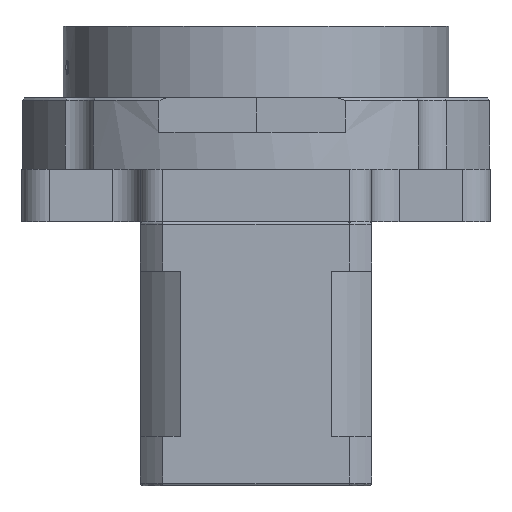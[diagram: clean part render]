
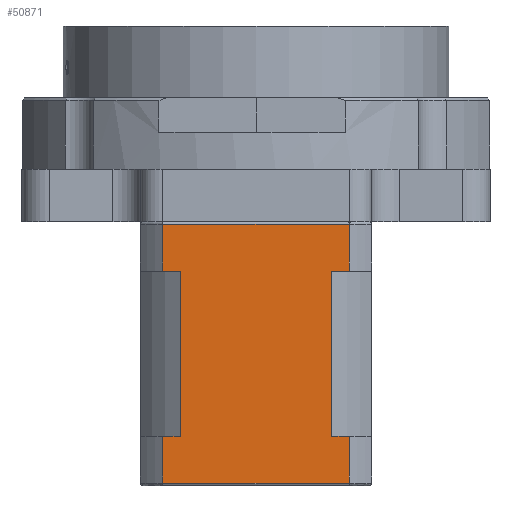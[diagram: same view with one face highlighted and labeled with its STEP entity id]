
A CAD part, front view. The second image highlights one B-rep face of the part: STEP entity #50871.
In plain terms, the highlighted planar face has unit normal (0, -1, 0).
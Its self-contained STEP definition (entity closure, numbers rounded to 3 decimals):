
#455 = LINE ( 'NONE', #16737, #22677 ) ;
#866 = LINE ( 'NONE', #35683, #26072 ) ;
#2549 = DIRECTION ( 'NONE',  ( 0., 0., 1. ) ) ;
#3076 = LINE ( 'NONE', #23248, #17151 ) ;
#3286 = VERTEX_POINT ( 'NONE', #44346 ) ;
#3741 = EDGE_CURVE ( 'NONE', #46959, #45045, #866, .T. ) ;
#4073 = ORIENTED_EDGE ( 'NONE', *, *, #44295, .F. ) ;
#4267 = ORIENTED_EDGE ( 'NONE', *, *, #47533, .F. ) ;
#4786 = ORIENTED_EDGE ( 'NONE', *, *, #5114, .F. ) ;
#5114 = EDGE_CURVE ( 'NONE', #37628, #23969, #3076, .T. ) ;
#5307 = CARTESIAN_POINT ( 'NONE',  ( -19.716, -63.121, 42.75 ) ) ;
#5423 = VERTEX_POINT ( 'NONE', #28643 ) ;
#5902 = DIRECTION ( 'NONE',  ( 0., 0., -1. ) ) ;
#7229 = ORIENTED_EDGE ( 'NONE', *, *, #44148, .F. ) ;
#7815 = VECTOR ( 'NONE', #43420, 1000. ) ;
#8179 = VECTOR ( 'NONE', #5902, 1000. ) ;
#8844 = VECTOR ( 'NONE', #61159, 1000. ) ;
#8986 = EDGE_CURVE ( 'NONE', #28446, #47922, #44491, .T. ) ;
#11150 = CARTESIAN_POINT ( 'NONE',  ( -22.938, -63.121, 43.25 ) ) ;
#11440 = EDGE_CURVE ( 'NONE', #5423, #46959, #455, .T. ) ;
#11457 = CARTESIAN_POINT ( 'NONE',  ( -22.938, -63.121, 81.75 ) ) ;
#11573 = PLANE ( 'NONE',  #17022 ) ;
#12390 = EDGE_CURVE ( 'NONE', #24683, #29855, #13750, .T. ) ;
#12729 = CARTESIAN_POINT ( 'NONE',  ( 11.003, -63.121, 43.25 ) ) ;
#12991 = EDGE_CURVE ( 'NONE', #19612, #5423, #45610, .T. ) ;
#13750 = LINE ( 'NONE', #61180, #61115 ) ;
#14010 = CARTESIAN_POINT ( 'NONE',  ( -26.967, -63.121, 90.25 ) ) ;
#14128 = DIRECTION ( 'NONE',  ( 0., 0., 1. ) ) ;
#14578 = CARTESIAN_POINT ( 'NONE',  ( 11.003, -63.121, 42.75 ) ) ;
#14623 = ORIENTED_EDGE ( 'NONE', *, *, #3741, .F. ) ;
#16697 = ORIENTED_EDGE ( 'NONE', *, *, #46854, .F. ) ;
#16737 = CARTESIAN_POINT ( 'NONE',  ( -26.967, -63.121, 81.75 ) ) ;
#17022 = AXIS2_PLACEMENT_3D ( 'NONE', #49473, #58960, #30652 ) ;
#17151 = VECTOR ( 'NONE', #14128, 1000. ) ;
#18080 = EDGE_LOOP ( 'NONE', ( #33441, #39430, #4267, #42472, #16697, #41265, #4073, #14623, #19673, #54689, #7229, #4786 ) ) ;
#19612 = VERTEX_POINT ( 'NONE', #53298 ) ;
#19673 = ORIENTED_EDGE ( 'NONE', *, *, #11440, .F. ) ;
#20020 = LINE ( 'NONE', #56431, #32639 ) ;
#21512 = VECTOR ( 'NONE', #37636, 1000. ) ;
#22677 = VECTOR ( 'NONE', #49862, 1000. ) ;
#22829 = LINE ( 'NONE', #14578, #35429 ) ;
#23248 = CARTESIAN_POINT ( 'NONE',  ( -22.938, -63.121, 42.75 ) ) ;
#23332 = DIRECTION ( 'NONE',  ( 1., 0., 0. ) ) ;
#23338 = DIRECTION ( 'NONE',  ( 0., 0., -1. ) ) ;
#23376 = CARTESIAN_POINT ( 'NONE',  ( 7.781, -63.121, 51.75 ) ) ;
#23969 = VERTEX_POINT ( 'NONE', #25824 ) ;
#24428 = VECTOR ( 'NONE', #25556, 1000. ) ;
#24683 = VERTEX_POINT ( 'NONE', #55999 ) ;
#25556 = DIRECTION ( 'NONE',  ( -1., 0., 0. ) ) ;
#25824 = CARTESIAN_POINT ( 'NONE',  ( -22.938, -63.121, 51.75 ) ) ;
#26072 = VECTOR ( 'NONE', #2549, 1000. ) ;
#27818 = CARTESIAN_POINT ( 'NONE',  ( -26.967, -63.121, 51.75 ) ) ;
#28101 = CARTESIAN_POINT ( 'NONE',  ( 15.033, -63.121, 43.25 ) ) ;
#28228 = CARTESIAN_POINT ( 'NONE',  ( 11.003, -63.121, 81.75 ) ) ;
#28446 = VERTEX_POINT ( 'NONE', #45558 ) ;
#28643 = CARTESIAN_POINT ( 'NONE',  ( -19.716, -63.121, 81.75 ) ) ;
#29073 = DIRECTION ( 'NONE',  ( 0., 0., -1. ) ) ;
#29611 = VECTOR ( 'NONE', #60878, 1000. ) ;
#29716 = CARTESIAN_POINT ( 'NONE',  ( 11.003, -63.121, 42.75 ) ) ;
#29855 = VERTEX_POINT ( 'NONE', #23376 ) ;
#30652 = DIRECTION ( 'NONE',  ( -1., 0., 0. ) ) ;
#31409 = CARTESIAN_POINT ( 'NONE',  ( -22.938, -63.121, 90.25 ) ) ;
#32639 = VECTOR ( 'NONE', #23332, 1000. ) ;
#33441 = ORIENTED_EDGE ( 'NONE', *, *, #54616, .F. ) ;
#34064 = LINE ( 'NONE', #28101, #8844 ) ;
#35429 = VECTOR ( 'NONE', #29073, 1000. ) ;
#35683 = CARTESIAN_POINT ( 'NONE',  ( -22.938, -63.121, 42.75 ) ) ;
#37628 = VERTEX_POINT ( 'NONE', #11150 ) ;
#37636 = DIRECTION ( 'NONE',  ( 1., 0., 0. ) ) ;
#39430 = ORIENTED_EDGE ( 'NONE', *, *, #60219, .F. ) ;
#40670 = FACE_OUTER_BOUND ( 'NONE', #18080, .T. ) ;
#41265 = ORIENTED_EDGE ( 'NONE', *, *, #8986, .F. ) ;
#42472 = ORIENTED_EDGE ( 'NONE', *, *, #12390, .F. ) ;
#43420 = DIRECTION ( 'NONE',  ( 0., 0., 1. ) ) ;
#44148 = EDGE_CURVE ( 'NONE', #23969, #19612, #20020, .T. ) ;
#44295 = EDGE_CURVE ( 'NONE', #45045, #28446, #57769, .T. ) ;
#44346 = CARTESIAN_POINT ( 'NONE',  ( 11.003, -63.121, 51.75 ) ) ;
#44491 = LINE ( 'NONE', #29716, #8179 ) ;
#45045 = VERTEX_POINT ( 'NONE', #31409 ) ;
#45167 = LINE ( 'NONE', #27818, #29611 ) ;
#45558 = CARTESIAN_POINT ( 'NONE',  ( 11.003, -63.121, 90.25 ) ) ;
#45610 = LINE ( 'NONE', #5307, #7815 ) ;
#46854 = EDGE_CURVE ( 'NONE', #47922, #24683, #48122, .T. ) ;
#46959 = VERTEX_POINT ( 'NONE', #11457 ) ;
#47533 = EDGE_CURVE ( 'NONE', #29855, #3286, #45167, .T. ) ;
#47922 = VERTEX_POINT ( 'NONE', #28228 ) ;
#48122 = LINE ( 'NONE', #48748, #24428 ) ;
#48748 = CARTESIAN_POINT ( 'NONE',  ( -26.967, -63.121, 81.75 ) ) ;
#49473 = CARTESIAN_POINT ( 'NONE',  ( -26.967, -63.121, 42.75 ) ) ;
#49862 = DIRECTION ( 'NONE',  ( -1., 0., 0. ) ) ;
#50871 = ADVANCED_FACE ( 'NONE', ( #40670 ), #11573, .F. ) ;
#53298 = CARTESIAN_POINT ( 'NONE',  ( -19.716, -63.121, 51.75 ) ) ;
#54616 = EDGE_CURVE ( 'NONE', #59398, #37628, #34064, .T. ) ;
#54689 = ORIENTED_EDGE ( 'NONE', *, *, #12991, .F. ) ;
#55999 = CARTESIAN_POINT ( 'NONE',  ( 7.781, -63.121, 81.75 ) ) ;
#56431 = CARTESIAN_POINT ( 'NONE',  ( -26.967, -63.121, 51.75 ) ) ;
#57769 = LINE ( 'NONE', #14010, #21512 ) ;
#58960 = DIRECTION ( 'NONE',  ( 0., 1., 0. ) ) ;
#59398 = VERTEX_POINT ( 'NONE', #12729 ) ;
#60219 = EDGE_CURVE ( 'NONE', #3286, #59398, #22829, .T. ) ;
#60878 = DIRECTION ( 'NONE',  ( 1., 0., 0. ) ) ;
#61115 = VECTOR ( 'NONE', #23338, 1000. ) ;
#61159 = DIRECTION ( 'NONE',  ( -1., 0., 0. ) ) ;
#61180 = CARTESIAN_POINT ( 'NONE',  ( 7.781, -63.121, 42.75 ) ) ;
